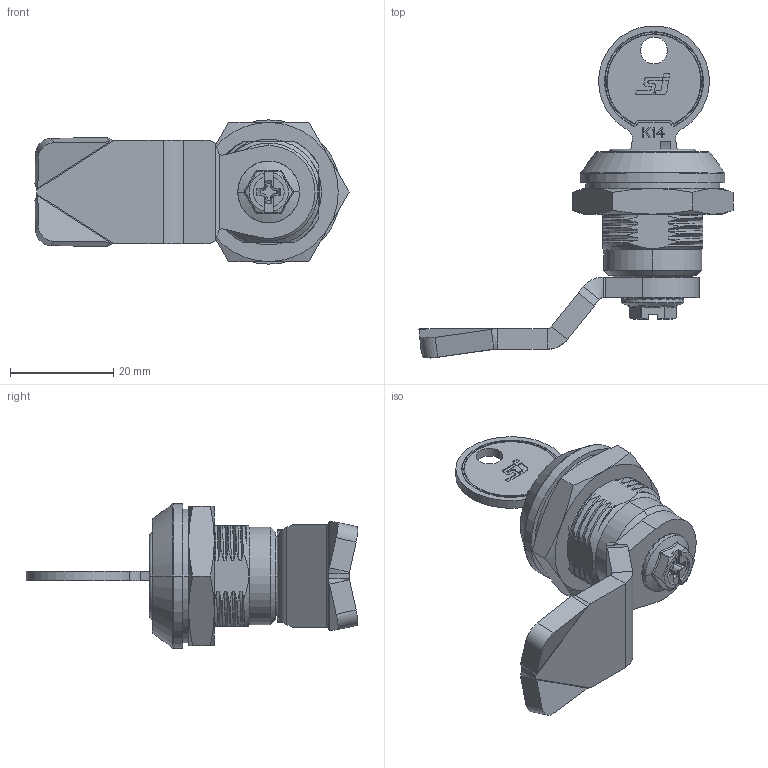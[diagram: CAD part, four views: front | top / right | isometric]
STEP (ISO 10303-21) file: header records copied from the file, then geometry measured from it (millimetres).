
FILE_DESCRIPTION((''),'2;1');
FILE_NAME('MS705-3E_ASM','2016-07-15T',('master'),(''),'PRO/ENGINEER BY PARAMETRIC TECHNOLOGY CORPORATION, 2009060','PRO/ENGINEER BY PARAMETRIC TECHNOLOGY CORPORATION, 2009060','');
FILE_SCHEMA(('CONFIG_CONTROL_DESIGN'));
Length unit declared in the file: millimetre
Products named in the file (23): MS705-3E-JIZUO; INSERT_AF0; 846HUABANTANHUANG_AF0; 846HUABAN_AF0; 846MAOGAI_AF0; K14_AF0; 304-SUOPIAN-4_AF0; 304-SUOPIAN-4_AF1; 304-SUOPIAN-6_AF0; 304-SUOPIAN-2_AF0; 304-SUOPIAN-2_AF1; 304SUOPIANTANHUANG_AF0; 304SUOPIANTANHUANG_AF2; 304SUOPIANTANHUANG_AF3; 304SUOPIANTANHUANG_AF1; 304SUOPIANTANHUANG_AF4; L2D1140_ASM; 0-14X19; S1B4507; SW6X5; MS705-CEIDIAN; MS705-LUOMU; MS705-3E_ASM
Assembly tree (22 placements, depth 3):
  MS705-3E_ASM
    MS705-3E-JIZUO
    L2D1140_ASM
      INSERT_AF0
      846HUABANTANHUANG_AF0
      846HUABAN_AF0
      846MAOGAI_AF0
      K14_AF0
      304-SUOPIAN-4_AF0
      304-SUOPIAN-4_AF1
      304-SUOPIAN-6_AF0
      304-SUOPIAN-2_AF0
      304-SUOPIAN-2_AF1
      304SUOPIANTANHUANG_AF0
      304SUOPIANTANHUANG_AF2
      304SUOPIANTANHUANG_AF3
      304SUOPIANTANHUANG_AF1
      304SUOPIANTANHUANG_AF4
    0-14X19
    S1B4507
    SW6X5
    MS705-CEIDIAN
    MS705-LUOMU
Bounding box: 60.97 x 64.44 x 28 mm (x, y, z)
Volume: 15758.5 mm3; surface area: 10736 mm2
Topology: 18 solids, 18 shells, 861 faces, 2142 edges, 1333 vertices
Faces by surface type: bspline 270, plane 268, cylinder 204, sphere 51, torus 43, cone 25
Entity records: 58537 total; most frequent: CARTESIAN_POINT 39532, ORIENTED_EDGE 4284, DIRECTION 3246, EDGE_CURVE 2142, VERTEX_POINT 1333, AXIS2_PLACEMENT_3D 1178, VECTOR 890, LINE 890
